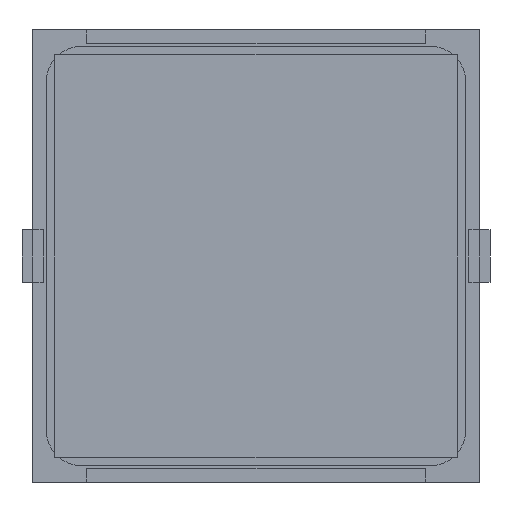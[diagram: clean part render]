
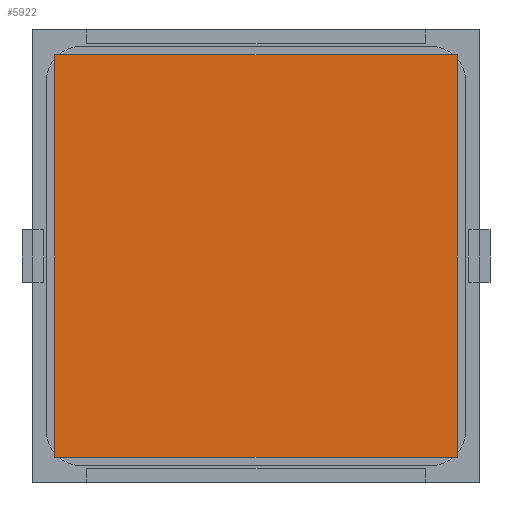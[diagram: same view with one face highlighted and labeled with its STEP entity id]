
A CAD part, front view. The second image highlights one B-rep face of the part: STEP entity #5922.
In plain terms, the highlighted planar face has unit normal (0, -1, 0).
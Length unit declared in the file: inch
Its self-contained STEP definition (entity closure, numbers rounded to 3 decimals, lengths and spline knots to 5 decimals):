
#304 = DIRECTION ( 'NONE',  ( 0., 0., 1. ) ) ;
#475 = VECTOR ( 'NONE', #4259, 39.37008 ) ;
#563 = CARTESIAN_POINT ( 'NONE',  ( 0.74803, -0.005, -0.74803 ) ) ;
#1076 = AXIS2_PLACEMENT_3D ( 'NONE', #11591, #4939, #1354 ) ;
#1249 = EDGE_CURVE ( 'NONE', #1762, #11556, #10746, .T. ) ;
#1334 = ORIENTED_EDGE ( 'NONE', *, *, #1249, .F. ) ;
#1354 = DIRECTION ( 'NONE',  ( 0., 0., 1. ) ) ;
#1762 = VERTEX_POINT ( 'NONE', #4710 ) ;
#1986 = LINE ( 'NONE', #10371, #10891 ) ;
#2042 = DIRECTION ( 'NONE',  ( 1., 0., 0. ) ) ;
#2364 = EDGE_CURVE ( 'NONE', #7324, #6934, #5989, .T. ) ;
#2977 = ORIENTED_EDGE ( 'NONE', *, *, #2364, .F. ) ;
#3460 = CARTESIAN_POINT ( 'NONE',  ( -0.74803, -0.005, -0.74803 ) ) ;
#3597 = CARTESIAN_POINT ( 'NONE',  ( -0.74803, -0.005, 0.74803 ) ) ;
#3623 = EDGE_LOOP ( 'NONE', ( #2977, #9639, #1334, #7786 ) ) ;
#4259 = DIRECTION ( 'NONE',  ( -1., 0., 0. ) ) ;
#4509 = EDGE_CURVE ( 'NONE', #11556, #7324, #9894, .T. ) ;
#4710 = CARTESIAN_POINT ( 'NONE',  ( 0.74803, -0.005, 0.74803 ) ) ;
#4939 = DIRECTION ( 'NONE',  ( 0., 1., 0. ) ) ;
#5175 = FACE_OUTER_BOUND ( 'NONE', #3623, .T. ) ;
#5290 = CARTESIAN_POINT ( 'NONE',  ( 0.74803, -0.005, -0.74803 ) ) ;
#5744 = CARTESIAN_POINT ( 'NONE',  ( -0.74803, -0.005, -0.74803 ) ) ;
#5922 = ADVANCED_FACE ( 'NONE', ( #5175 ), #10505, .F. ) ;
#5989 = LINE ( 'NONE', #5744, #9705 ) ;
#6934 = VERTEX_POINT ( 'NONE', #3597 ) ;
#6982 = DIRECTION ( 'NONE',  ( 0., 0., -1. ) ) ;
#7324 = VERTEX_POINT ( 'NONE', #10946 ) ;
#7715 = EDGE_CURVE ( 'NONE', #6934, #1762, #1986, .T. ) ;
#7786 = ORIENTED_EDGE ( 'NONE', *, *, #7715, .F. ) ;
#8056 = VECTOR ( 'NONE', #6982, 39.37008 ) ;
#9639 = ORIENTED_EDGE ( 'NONE', *, *, #4509, .F. ) ;
#9705 = VECTOR ( 'NONE', #304, 39.37008 ) ;
#9894 = LINE ( 'NONE', #3460, #475 ) ;
#10371 = CARTESIAN_POINT ( 'NONE',  ( -0.74803, -0.005, 0.74803 ) ) ;
#10505 = PLANE ( 'NONE',  #1076 ) ;
#10746 = LINE ( 'NONE', #5290, #8056 ) ;
#10891 = VECTOR ( 'NONE', #2042, 39.37008 ) ;
#10946 = CARTESIAN_POINT ( 'NONE',  ( -0.74803, -0.005, -0.74803 ) ) ;
#11556 = VERTEX_POINT ( 'NONE', #563 ) ;
#11591 = CARTESIAN_POINT ( 'NONE',  ( -0.74803, -0.005, 0.74803 ) ) ;
